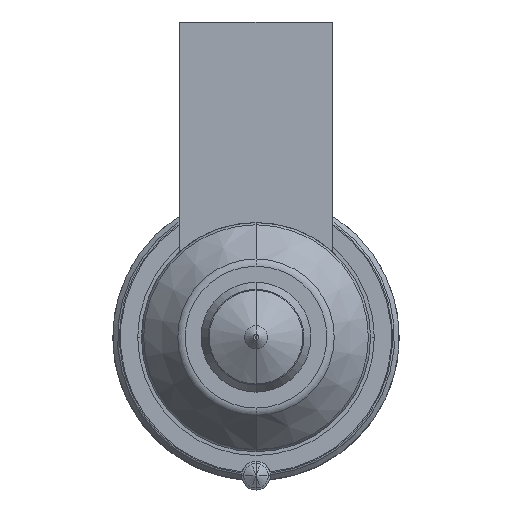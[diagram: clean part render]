
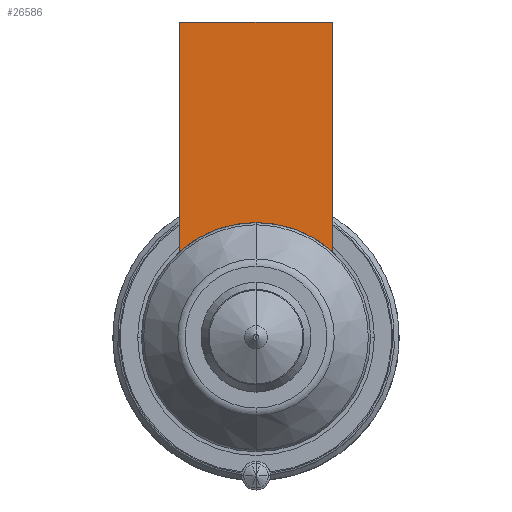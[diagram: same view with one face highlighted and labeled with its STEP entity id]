
A CAD part, front view. The second image highlights one B-rep face of the part: STEP entity #26586.
In plain terms, the highlighted planar face has unit normal (0, -1, 0).
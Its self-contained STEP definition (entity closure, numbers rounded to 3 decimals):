
#25763=DIRECTION('',(0.,0.,-1.));
#25764=VECTOR('',#25763,24.056);
#25765=CARTESIAN_POINT('',(-8.,-56.,33.));
#25766=LINE('',#25765,#25764);
#25778=CARTESIAN_POINT('',(0.,-56.,0.));
#25779=DIRECTION('',(0.,-1.,0.));
#25780=DIRECTION('',(0.,0.,1.));
#25781=AXIS2_PLACEMENT_3D('',#25778,#25779,#25780);
#25786=DIRECTION('',(1.,0.,0.));
#25787=VECTOR('',#25786,16.);
#25788=CARTESIAN_POINT('',(-8.,-56.,33.));
#25789=LINE('',#25788,#25787);
#25793=CARTESIAN_POINT('',(0.,-56.,0.));
#25794=DIRECTION('',(0.,-1.,0.));
#25795=DIRECTION('',(0.667,0.,0.745));
#25796=AXIS2_PLACEMENT_3D('',#25793,#25794,#25795);
#25948=DIRECTION('',(0.,0.,-1.));
#25949=VECTOR('',#25948,24.056);
#25950=CARTESIAN_POINT('',(8.,-56.,33.));
#25951=LINE('',#25950,#25949);
#26501=CARTESIAN_POINT('',(-8.,-56.,33.));
#26502=VERTEX_POINT('',#26501);
#26507=CARTESIAN_POINT('',(8.,-56.,33.));
#26508=VERTEX_POINT('',#26507);
#26510=CARTESIAN_POINT('',(-8.,-56.,8.944));
#26512=VERTEX_POINT('',#26510);
#26514=CARTESIAN_POINT('',(8.,-56.,8.944));
#26516=VERTEX_POINT('',#26514);
#26519=CARTESIAN_POINT('',(0.,-56.,12.));
#26520=VERTEX_POINT('',#26519);
#26571=CARTESIAN_POINT('',(-8.,-56.,33.));
#26572=DIRECTION('',(0.,-1.,0.));
#26573=DIRECTION('',(0.,0.,-1.));
#26574=AXIS2_PLACEMENT_3D('',#26571,#26572,#26573);
#26575=PLANE('',#26574);
#26576=ORIENTED_EDGE('',*,*,#26550,.T.);
#26577=ORIENTED_EDGE('',*,*,#26539,.F.);
#26579=ORIENTED_EDGE('',*,*,#26578,.T.);
#26581=ORIENTED_EDGE('',*,*,#26580,.T.);
#26583=ORIENTED_EDGE('',*,*,#26582,.T.);
#26584=EDGE_LOOP('',(#26576,#26577,#26579,#26581,#26583));
#26585=FACE_OUTER_BOUND('',#26584,.F.);
#26586=ADVANCED_FACE('',(#26585),#26575,.T.);
#25782=CIRCLE('',#25781,12.);
#25797=CIRCLE('',#25796,12.);
#26539=EDGE_CURVE('',#26502,#26512,#25766,.T.);
#26550=EDGE_CURVE('',#26520,#26512,#25782,.T.);
#26578=EDGE_CURVE('',#26502,#26508,#25789,.T.);
#26580=EDGE_CURVE('',#26508,#26516,#25951,.T.);
#26582=EDGE_CURVE('',#26516,#26520,#25797,.T.);
